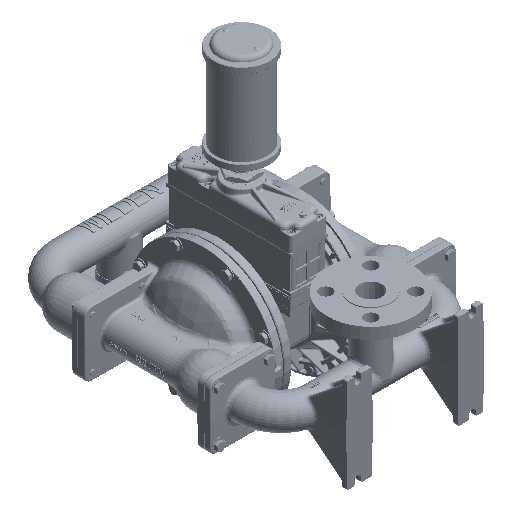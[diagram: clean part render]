
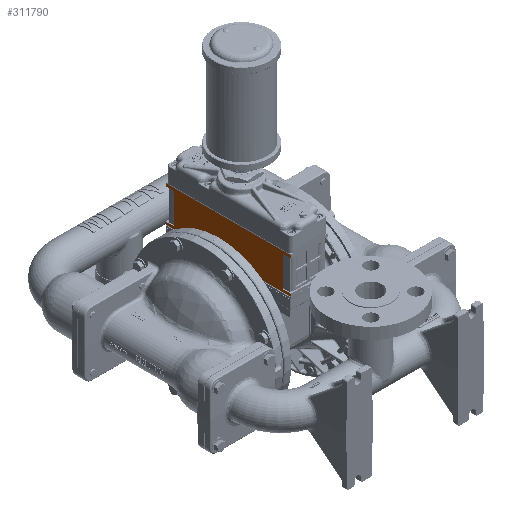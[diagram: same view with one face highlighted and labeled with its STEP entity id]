
A CAD part, isometric view. The second image highlights one B-rep face of the part: STEP entity #311790.
In plain terms, the highlighted planar face has unit normal (-1, 0, 0).
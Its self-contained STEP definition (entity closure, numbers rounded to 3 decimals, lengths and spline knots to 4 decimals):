
#9652 = CARTESIAN_POINT ( 'NONE',  ( -1.315, -4.05, 3.2195 ) ) ;
#12523 = CARTESIAN_POINT ( 'NONE',  ( -1.315, 4.8, 3.2195 ) ) ;
#14740 = ORIENTED_EDGE ( 'NONE', *, *, #344670, .F. ) ;
#22487 = VERTEX_POINT ( 'NONE', #38869 ) ;
#22658 = ORIENTED_EDGE ( 'NONE', *, *, #214150, .T. ) ;
#27137 = CARTESIAN_POINT ( 'NONE',  ( -1.315, 4.8, 5.557 ) ) ;
#27545 = B_SPLINE_CURVE_WITH_KNOTS ( 'NONE', 3,
 ( #70796, #366864, #412461, #244372 ),
 .UNSPECIFIED., .F., .F.,
 ( 4, 4 ),
 ( 0., 1. ),
 .UNSPECIFIED. ) ;
#29977 = EDGE_CURVE ( 'NONE', #381086, #547485, #542697, .T. ) ;
#33390 = EDGE_CURVE ( 'NONE', #560990, #333497, #141233, .T. ) ;
#34438 = B_SPLINE_CURVE_WITH_KNOTS ( 'NONE', 3,
 ( #98363, #391704, #272025, #132615 ),
 .UNSPECIFIED., .F., .F.,
 ( 4, 4 ),
 ( 0., 1. ),
 .UNSPECIFIED. ) ;
#35259 = CARTESIAN_POINT ( 'NONE',  ( -1.315, 4.8, 5.3845 ) ) ;
#37791 = B_SPLINE_CURVE_WITH_KNOTS ( 'NONE', 3,
 ( #431132, #134914, #260233, #49612 ),
 .UNSPECIFIED., .F., .F.,
 ( 4, 4 ),
 ( 0., 1. ),
 .UNSPECIFIED. ) ;
#38869 = CARTESIAN_POINT ( 'NONE',  ( -1.315, 4.225, 3.2195 ) ) ;
#40869 = CARTESIAN_POINT ( 'NONE',  ( -1.315, 4.225, 5.3845 ) ) ;
#44340 = DIRECTION ( 'NONE',  ( 0., 0., 1. ) ) ;
#49612 = CARTESIAN_POINT ( 'NONE',  ( -1.315, -4.05, 5.3845 ) ) ;
#53587 = ORIENTED_EDGE ( 'NONE', *, *, #535949, .T. ) ;
#55019 = B_SPLINE_CURVE_WITH_KNOTS ( 'NONE', 3,
 ( #12523, #487729, #314110, #148851 ),
 .UNSPECIFIED., .F., .F.,
 ( 4, 4 ),
 ( 0., 1. ),
 .UNSPECIFIED. ) ;
#66570 = CARTESIAN_POINT ( 'NONE',  ( -1.315, 4.8, 5.3845 ) ) ;
#70796 = CARTESIAN_POINT ( 'NONE',  ( -1.315, 4.225, 5.3845 ) ) ;
#83938 = CARTESIAN_POINT ( 'NONE',  ( -1.315, -4.05, 5.557 ) ) ;
#84634 = VERTEX_POINT ( 'NONE', #390439 ) ;
#86012 = CARTESIAN_POINT ( 'NONE',  ( -1.315, -3.6667, 3.2195 ) ) ;
#87171 = CARTESIAN_POINT ( 'NONE',  ( -1.315, -1.1, 3.047 ) ) ;
#94046 = EDGE_CURVE ( 'NONE', #22487, #429808, #294081, .T. ) ;
#98363 = CARTESIAN_POINT ( 'NONE',  ( -1.315, -4.05, 5.557 ) ) ;
#115423 = CARTESIAN_POINT ( 'NONE',  ( -1.315, -4.05, 5.4995 ) ) ;
#124239 = CARTESIAN_POINT ( 'NONE',  ( -1.315, 4.8, 3.047 ) ) ;
#129898 = EDGE_CURVE ( 'NONE', #293238, #333497, #34438, .T. ) ;
#132615 = CARTESIAN_POINT ( 'NONE',  ( -1.315, 4.8, 5.557 ) ) ;
#132638 = CARTESIAN_POINT ( 'NONE',  ( -1.315, 1.85, 3.047 ) ) ;
#134914 = CARTESIAN_POINT ( 'NONE',  ( -1.315, -3.6667, 5.3845 ) ) ;
#141233 = B_SPLINE_CURVE_WITH_KNOTS ( 'NONE', 3,
 ( #328759, #163531, #417049, #27137 ),
 .UNSPECIFIED., .F., .F.,
 ( 4, 4 ),
 ( 0., 1. ),
 .UNSPECIFIED. ) ;
#148851 = CARTESIAN_POINT ( 'NONE',  ( -1.315, 4.8, 3.047 ) ) ;
#155530 = B_SPLINE_CURVE_WITH_KNOTS ( 'NONE', 3,
 ( #83938, #115423, #289076, #513807 ),
 .UNSPECIFIED., .F., .F.,
 ( 4, 4 ),
 ( 0., 1. ),
 .UNSPECIFIED. ) ;
#158718 = CARTESIAN_POINT ( 'NONE',  ( -1.315, 4.6083, 3.2195 ) ) ;
#163129 = CARTESIAN_POINT ( 'NONE',  ( -1.315, 4.8, 5.557 ) ) ;
#163531 = CARTESIAN_POINT ( 'NONE',  ( -1.315, 4.8, 5.442 ) ) ;
#167485 = VERTEX_POINT ( 'NONE', #470521 ) ;
#167517 = CARTESIAN_POINT ( 'NONE',  ( -1.315, -3.475, 5.3845 ) ) ;
#169788 = CARTESIAN_POINT ( 'NONE',  ( -1.315, -4.05, 3.047 ) ) ;
#178755 = CARTESIAN_POINT ( 'NONE',  ( -1.315, -3.475, 5.3845 ) ) ;
#180836 = PLANE ( 'NONE',  #281850 ) ;
#196124 = VERTEX_POINT ( 'NONE', #167517 ) ;
#197939 = EDGE_CURVE ( 'NONE', #429808, #547485, #55019, .T. ) ;
#201765 = EDGE_LOOP ( 'NONE', ( #417450, #236135, #420232, #22658, #14740, #453900, #224164, #53587, #542492, #288673, #290330, #219083 ) ) ;
#214150 = EDGE_CURVE ( 'NONE', #196124, #84634, #37791, .T. ) ;
#217192 = CARTESIAN_POINT ( 'NONE',  ( -1.315, 4.6083, 5.3845 ) ) ;
#219083 = ORIENTED_EDGE ( 'NONE', *, *, #29977, .F. ) ;
#224164 = ORIENTED_EDGE ( 'NONE', *, *, #33390, .F. ) ;
#225821 = CARTESIAN_POINT ( 'NONE',  ( -1.315, -4.05, 3.1045 ) ) ;
#233827 = CARTESIAN_POINT ( 'NONE',  ( -1.315, 4.8, 3.047 ) ) ;
#236135 = ORIENTED_EDGE ( 'NONE', *, *, #352489, .T. ) ;
#244372 = CARTESIAN_POINT ( 'NONE',  ( -1.315, 4.225, 3.2195 ) ) ;
#246935 = CARTESIAN_POINT ( 'NONE',  ( -1.315, 4.4167, 3.2195 ) ) ;
#258677 = B_SPLINE_CURVE_WITH_KNOTS ( 'NONE', 3,
 ( #268570, #225821, #399491, #9652 ),
 .UNSPECIFIED., .F., .F.,
 ( 4, 4 ),
 ( 0., 1. ),
 .UNSPECIFIED. ) ;
#259614 = CARTESIAN_POINT ( 'NONE',  ( -1.315, -3.475, 3.2195 ) ) ;
#260233 = CARTESIAN_POINT ( 'NONE',  ( -1.315, -3.8583, 5.3845 ) ) ;
#268570 = CARTESIAN_POINT ( 'NONE',  ( -1.315, -4.05, 3.047 ) ) ;
#272025 = CARTESIAN_POINT ( 'NONE',  ( -1.315, 1.85, 5.557 ) ) ;
#278908 = CARTESIAN_POINT ( 'NONE',  ( -1.315, -3.475, 3.2195 ) ) ;
#281850 = AXIS2_PLACEMENT_3D ( 'NONE', #437066, #522443, #44340 ) ;
#288673 = ORIENTED_EDGE ( 'NONE', *, *, #94046, .T. ) ;
#289076 = CARTESIAN_POINT ( 'NONE',  ( -1.315, -4.05, 5.442 ) ) ;
#289647 = CARTESIAN_POINT ( 'NONE',  ( -1.315, 4.225, 3.2195 ) ) ;
#290330 = ORIENTED_EDGE ( 'NONE', *, *, #197939, .T. ) ;
#293238 = VERTEX_POINT ( 'NONE', #559775 ) ;
#293494 = CARTESIAN_POINT ( 'NONE',  ( -1.315, -3.475, 3.9412 ) ) ;
#294081 = B_SPLINE_CURVE_WITH_KNOTS ( 'NONE', 3,
 ( #289647, #246935, #158718, #383436 ),
 .UNSPECIFIED., .F., .F.,
 ( 4, 4 ),
 ( 0., 1. ),
 .UNSPECIFIED. ) ;
#302308 = CARTESIAN_POINT ( 'NONE',  ( -1.315, -4.05, 3.2195 ) ) ;
#311715 = FACE_OUTER_BOUND ( 'NONE', #201765, .T. ) ;
#311790 = ADVANCED_FACE ( 'NONE', ( #311715 ), #180836, .T. ) ;
#314110 = CARTESIAN_POINT ( 'NONE',  ( -1.315, 4.8, 3.1045 ) ) ;
#328759 = CARTESIAN_POINT ( 'NONE',  ( -1.315, 4.8, 5.3845 ) ) ;
#333497 = VERTEX_POINT ( 'NONE', #163129 ) ;
#342518 = CARTESIAN_POINT ( 'NONE',  ( -1.315, 4.8, 3.2195 ) ) ;
#343765 = B_SPLINE_CURVE_WITH_KNOTS ( 'NONE', 3,
 ( #302308, #475971, #86012, #259614 ),
 .UNSPECIFIED., .F., .F.,
 ( 4, 4 ),
 ( 0., 1. ),
 .UNSPECIFIED. ) ;
#344670 = EDGE_CURVE ( 'NONE', #293238, #84634, #155530, .T. ) ;
#352489 = EDGE_CURVE ( 'NONE', #167485, #407526, #343765, .T. ) ;
#366864 = CARTESIAN_POINT ( 'NONE',  ( -1.315, 4.225, 4.6628 ) ) ;
#374946 = CARTESIAN_POINT ( 'NONE',  ( -1.315, -4.05, 3.047 ) ) ;
#381086 = VERTEX_POINT ( 'NONE', #374946 ) ;
#383436 = CARTESIAN_POINT ( 'NONE',  ( -1.315, 4.8, 3.2195 ) ) ;
#390439 = CARTESIAN_POINT ( 'NONE',  ( -1.315, -4.05, 5.3845 ) ) ;
#391704 = CARTESIAN_POINT ( 'NONE',  ( -1.315, -1.1, 5.557 ) ) ;
#399491 = CARTESIAN_POINT ( 'NONE',  ( -1.315, -4.05, 3.162 ) ) ;
#400628 = EDGE_CURVE ( 'NONE', #381086, #167485, #258677, .T. ) ;
#407526 = VERTEX_POINT ( 'NONE', #278908 ) ;
#412461 = CARTESIAN_POINT ( 'NONE',  ( -1.315, 4.225, 3.9412 ) ) ;
#417049 = CARTESIAN_POINT ( 'NONE',  ( -1.315, 4.8, 5.4995 ) ) ;
#417450 = ORIENTED_EDGE ( 'NONE', *, *, #400628, .T. ) ;
#420232 = ORIENTED_EDGE ( 'NONE', *, *, #552482, .T. ) ;
#429808 = VERTEX_POINT ( 'NONE', #342518 ) ;
#431132 = CARTESIAN_POINT ( 'NONE',  ( -1.315, -3.475, 5.3845 ) ) ;
#437066 = CARTESIAN_POINT ( 'NONE',  ( -1.315, 4.81, 2.987 ) ) ;
#453900 = ORIENTED_EDGE ( 'NONE', *, *, #129898, .T. ) ;
#470521 = CARTESIAN_POINT ( 'NONE',  ( -1.315, -4.05, 3.2195 ) ) ;
#471657 = B_SPLINE_CURVE_WITH_KNOTS ( 'NONE', 3,
 ( #35259, #217192, #507798, #553216 ),
 .UNSPECIFIED., .F., .F.,
 ( 4, 4 ),
 ( 0., 1. ),
 .UNSPECIFIED. ) ;
#475971 = CARTESIAN_POINT ( 'NONE',  ( -1.315, -3.8583, 3.2195 ) ) ;
#483245 = CARTESIAN_POINT ( 'NONE',  ( -1.315, -3.475, 3.2195 ) ) ;
#485011 = B_SPLINE_CURVE_WITH_KNOTS ( 'NONE', 3,
 ( #483245, #293494, #509872, #178755 ),
 .UNSPECIFIED., .F., .F.,
 ( 4, 4 ),
 ( 0., 1. ),
 .UNSPECIFIED. ) ;
#487729 = CARTESIAN_POINT ( 'NONE',  ( -1.315, 4.8, 3.162 ) ) ;
#507798 = CARTESIAN_POINT ( 'NONE',  ( -1.315, 4.4167, 5.3845 ) ) ;
#509872 = CARTESIAN_POINT ( 'NONE',  ( -1.315, -3.475, 4.6628 ) ) ;
#513807 = CARTESIAN_POINT ( 'NONE',  ( -1.315, -4.05, 5.3845 ) ) ;
#522443 = DIRECTION ( 'NONE',  ( -1., 0., 0. ) ) ;
#535949 = EDGE_CURVE ( 'NONE', #560990, #536041, #471657, .T. ) ;
#536041 = VERTEX_POINT ( 'NONE', #40869 ) ;
#542492 = ORIENTED_EDGE ( 'NONE', *, *, #547866, .T. ) ;
#542697 = B_SPLINE_CURVE_WITH_KNOTS ( 'NONE', 3,
 ( #169788, #87171, #132638, #124239 ),
 .UNSPECIFIED., .F., .F.,
 ( 4, 4 ),
 ( 0., 1. ),
 .UNSPECIFIED. ) ;
#547485 = VERTEX_POINT ( 'NONE', #233827 ) ;
#547866 = EDGE_CURVE ( 'NONE', #536041, #22487, #27545, .T. ) ;
#552482 = EDGE_CURVE ( 'NONE', #407526, #196124, #485011, .T. ) ;
#553216 = CARTESIAN_POINT ( 'NONE',  ( -1.315, 4.225, 5.3845 ) ) ;
#559775 = CARTESIAN_POINT ( 'NONE',  ( -1.315, -4.05, 5.557 ) ) ;
#560990 = VERTEX_POINT ( 'NONE', #66570 ) ;
